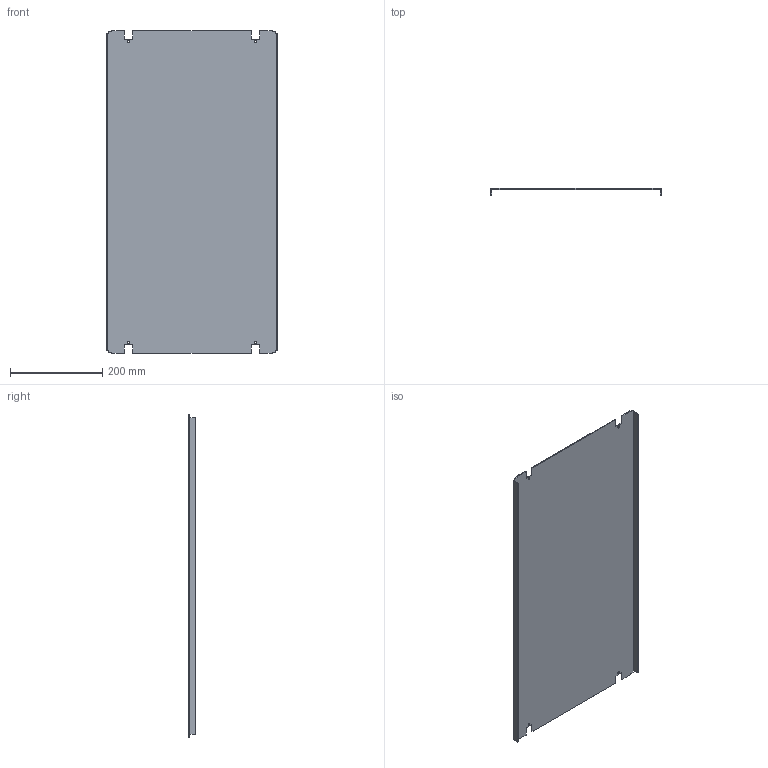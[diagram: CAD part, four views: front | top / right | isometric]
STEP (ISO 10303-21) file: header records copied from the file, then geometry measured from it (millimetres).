
FILE_DESCRIPTION(('CAx-IF Rec.Pracs.---Model Styling and Organization---1.2---2011-12-15','CAx-IF Rec.Pracs.---Geometric and Assembly Validation Properties---4.1---2014-06-16','CAx-IF Rec.Pracs.---PMI Polyline Presentation---2.0---2013-05-24'),'2;1');
FILE_NAME('R5CPL840.stp','2021-05-06T03:46:18+03:00',(''),(''),'STEP Interface 4.4 by CT CoreTechnologie','3D_Evolution4.4 by CT CoreTechnologie','');
FILE_SCHEMA(('AUTOMOTIVE_DESIGN { 1 0 10303 214 1 1 1 1 }'));
Length unit declared in the file: millimetre
Products named in the file (2): R5CPL840; RB.0549.00.00.0_-26
Assembly tree (1 placements, depth 2):
  R5CPL840
    RB.0549.00.00.0_-26
Bounding box: 369 x 15 x 699 mm (x, y, z)
Surface area: 551191 mm2 (no closed solid volume)
Topology: 0 solids, 1 shells, 58 faces, 160 edges, 104 vertices
Faces by surface type: plane 46, cylinder 12
Entity records: 1913 total; most frequent: CARTESIAN_POINT 324, ORIENTED_EDGE 320, DIRECTION 304, EDGE_CURVE 160, VECTOR 136, LINE 136, VERTEX_POINT 104, AXIS2_PLACEMENT_3D 84
